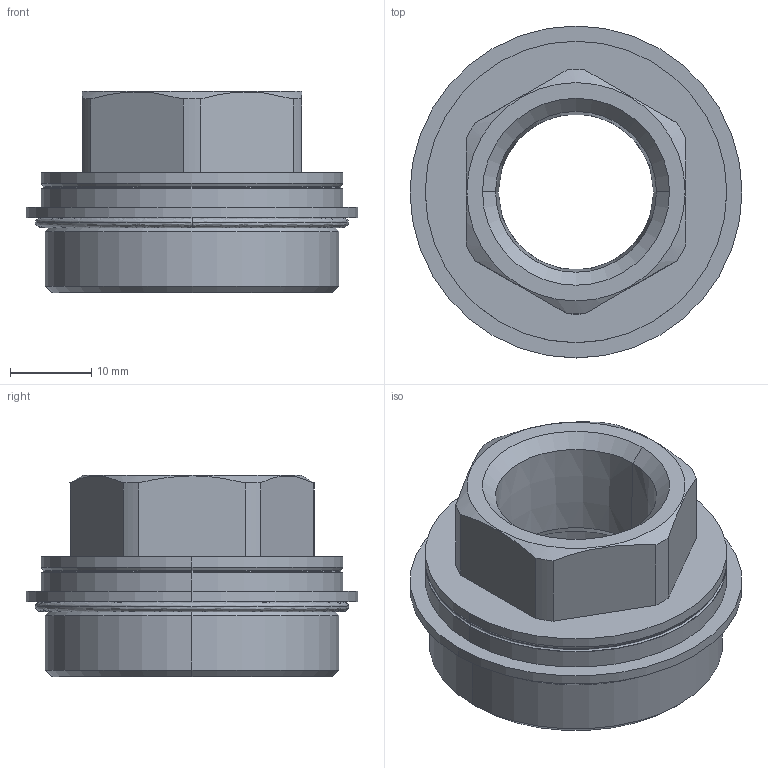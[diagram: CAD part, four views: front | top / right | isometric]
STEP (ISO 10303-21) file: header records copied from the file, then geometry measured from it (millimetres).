
FILE_DESCRIPTION (( 'STEP AP214' ), '1' );
FILE_NAME ('0003187_%Index_aktuell%_1.step', '2023-03-21T07:23:59', ( '' ), ( '' ), 'SwSTEP 2.0', 'SolidWorks 2020', '' );
FILE_SCHEMA (( 'AUTOMOTIVE_DESIGN' ));
Length unit declared in the file: millimetre
Products named in the file (4): 0002629_Verpresst_1; 0002495-B; 0003187_%Index_aktuell%_1; 0002495
Assembly tree (2 placements, depth 2):
  0002495-B
  0003187_%Index_aktuell%_1
    0002495
    0002629_Verpresst_1
Bounding box: 40.75 x 40.75 x 24.7 mm (x, y, z)
Volume: 12402.5 mm3; surface area: 6767.4 mm2
Topology: 2 solids, 2 shells, 59 faces, 130 edges, 78 vertices
Faces by surface type: cylinder 18, cone 16, plane 13, torus 8, bspline 4
Entity records: 1889 total; most frequent: CARTESIAN_POINT 404, DIRECTION 310, ORIENTED_EDGE 260, AXIS2_PLACEMENT_3D 132, EDGE_CURVE 130, VERTEX_POINT 78, CIRCLE 72, EDGE_LOOP 66
